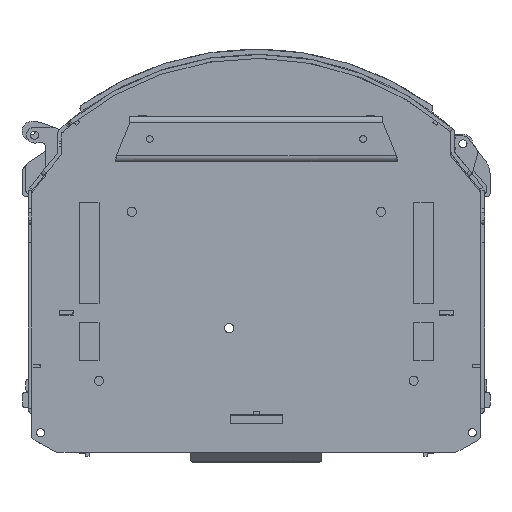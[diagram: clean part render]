
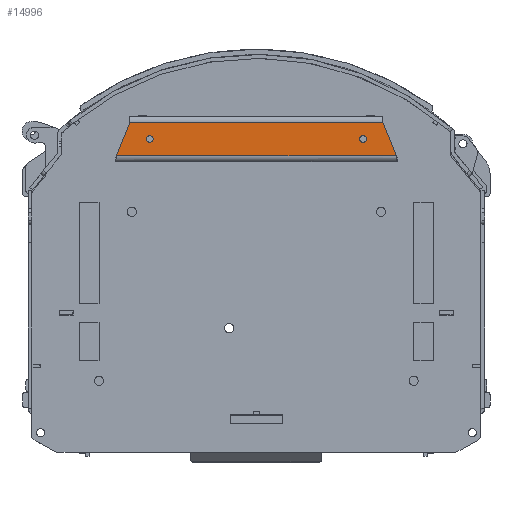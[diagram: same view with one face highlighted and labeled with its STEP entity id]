
A CAD part, front view. The second image highlights one B-rep face of the part: STEP entity #14996.
In plain terms, the highlighted planar face has unit normal (0, -1, 0).
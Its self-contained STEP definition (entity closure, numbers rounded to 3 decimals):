
#25 = CARTESIAN_POINT ( 'NONE',  ( -81.32, 314.45, 87.229 ) ) ;
#64 = FACE_BOUND ( 'NONE', #38293, .T. ) ;
#480 = DIRECTION ( 'NONE',  ( 1., 0., 0. ) ) ;
#583 = CARTESIAN_POINT ( 'NONE',  ( -96.47, 314.45, 100.129 ) ) ;
#1025 = AXIS2_PLACEMENT_3D ( 'NONE', #33492, #24568, #8058 ) ;
#2170 = AXIS2_PLACEMENT_3D ( 'NONE', #4388, #41446, #32261 ) ;
#2334 = ORIENTED_EDGE ( 'NONE', *, *, #44823, .F. ) ;
#3371 = CIRCLE ( 'NONE', #8443, 2.6 ) ;
#3579 = LINE ( 'NONE', #36587, #18578 ) ;
#4083 = DIRECTION ( 'NONE',  ( 0., -1., 0. ) ) ;
#4388 = CARTESIAN_POINT ( 'NONE',  ( 108.5, 314.45, 104.729 ) ) ;
#4570 = DIRECTION ( 'NONE',  ( -1., 0., 0. ) ) ;
#4771 = DIRECTION ( 'NONE',  ( -1., 0., 0. ) ) ;
#5293 = DIRECTION ( 'NONE',  ( 0., -1., 0. ) ) ;
#5603 = ORIENTED_EDGE ( 'NONE', *, *, #34275, .F. ) ;
#6062 = ORIENTED_EDGE ( 'NONE', *, *, #42382, .F. ) ;
#8012 = VECTOR ( 'NONE', #480, 1000. ) ;
#8058 = DIRECTION ( 'NONE',  ( -1., 0., 0. ) ) ;
#8179 = FACE_OUTER_BOUND ( 'NONE', #48666, .T. ) ;
#8443 = AXIS2_PLACEMENT_3D ( 'NONE', #40010, #5293, #4771 ) ;
#8631 = LINE ( 'NONE', #41620, #45521 ) ;
#9128 = EDGE_CURVE ( 'NONE', #47662, #14107, #3371, .T. ) ;
#11764 = CIRCLE ( 'NONE', #33360, 2.6 ) ;
#12213 = ORIENTED_EDGE ( 'NONE', *, *, #9128, .F. ) ;
#14107 = VERTEX_POINT ( 'NONE', #24081 ) ;
#14255 = VERTEX_POINT ( 'NONE', #50539 ) ;
#14878 = EDGE_CURVE ( 'NONE', #18257, #14255, #3579, .T. ) ;
#14996 = ADVANCED_FACE ( 'NONE', ( #8179, #24688, #64 ), #16551, .F. ) ;
#15891 = CARTESIAN_POINT ( 'NONE',  ( 83.92, 314.45, 87.229 ) ) ;
#16407 = VERTEX_POINT ( 'NONE', #583 ) ;
#16551 = PLANE ( 'NONE',  #2170 ) ;
#17157 = CARTESIAN_POINT ( 'NONE',  ( 96.47, 314.45, 100.129 ) ) ;
#17426 = CIRCLE ( 'NONE', #1025, 2.6 ) ;
#18257 = VERTEX_POINT ( 'NONE', #17157 ) ;
#18578 = VECTOR ( 'NONE', #44970, 1000. ) ;
#19780 = DIRECTION ( 'NONE',  ( -1., 0., 0. ) ) ;
#20180 = ORIENTED_EDGE ( 'NONE', *, *, #38160, .F. ) ;
#21005 = CIRCLE ( 'NONE', #43457, 2.6 ) ;
#24081 = CARTESIAN_POINT ( 'NONE',  ( -78.72, 314.45, 87.229 ) ) ;
#24568 = DIRECTION ( 'NONE',  ( 0., -1., 0. ) ) ;
#24688 = FACE_BOUND ( 'NONE', #27700, .T. ) ;
#26976 = ORIENTED_EDGE ( 'NONE', *, *, #14878, .F. ) ;
#27350 = LINE ( 'NONE', #27615, #46889 ) ;
#27615 = CARTESIAN_POINT ( 'NONE',  ( -106.68, 314.45, 74.329 ) ) ;
#27700 = EDGE_LOOP ( 'NONE', ( #12213, #20180 ) ) ;
#29175 = VERTEX_POINT ( 'NONE', #30639 ) ;
#30639 = CARTESIAN_POINT ( 'NONE',  ( -106.68, 314.45, 74.329 ) ) ;
#32261 = DIRECTION ( 'NONE',  ( 1., 0., 0. ) ) ;
#32403 = DIRECTION ( 'NONE',  ( -1., 0., 0. ) ) ;
#33208 = LINE ( 'NONE', #49966, #8012 ) ;
#33360 = AXIS2_PLACEMENT_3D ( 'NONE', #25, #4083, #19780 ) ;
#33492 = CARTESIAN_POINT ( 'NONE',  ( 81.32, 314.45, 87.229 ) ) ;
#34275 = EDGE_CURVE ( 'NONE', #40975, #40002, #21005, .T. ) ;
#34934 = DIRECTION ( 'NONE',  ( 0.368, 0., 0.93 ) ) ;
#36587 = CARTESIAN_POINT ( 'NONE',  ( 96.47, 314.45, 100.129 ) ) ;
#37389 = ORIENTED_EDGE ( 'NONE', *, *, #45245, .F. ) ;
#38160 = EDGE_CURVE ( 'NONE', #14107, #47662, #11764, .T. ) ;
#38293 = EDGE_LOOP ( 'NONE', ( #6062, #5603 ) ) ;
#39734 = CARTESIAN_POINT ( 'NONE',  ( -83.92, 314.45, 87.229 ) ) ;
#40002 = VERTEX_POINT ( 'NONE', #51036 ) ;
#40010 = CARTESIAN_POINT ( 'NONE',  ( -81.32, 314.45, 87.229 ) ) ;
#40780 = CARTESIAN_POINT ( 'NONE',  ( 81.32, 314.45, 87.229 ) ) ;
#40975 = VERTEX_POINT ( 'NONE', #15891 ) ;
#41446 = DIRECTION ( 'NONE',  ( 0., 1., 0. ) ) ;
#41620 = CARTESIAN_POINT ( 'NONE',  ( 108.5, 314.45, 74.329 ) ) ;
#42382 = EDGE_CURVE ( 'NONE', #40002, #40975, #17426, .T. ) ;
#43457 = AXIS2_PLACEMENT_3D ( 'NONE', #40780, #48633, #32403 ) ;
#44823 = EDGE_CURVE ( 'NONE', #16407, #18257, #33208, .T. ) ;
#44970 = DIRECTION ( 'NONE',  ( 0.368, 0., -0.93 ) ) ;
#45245 = EDGE_CURVE ( 'NONE', #29175, #16407, #27350, .T. ) ;
#45521 = VECTOR ( 'NONE', #4570, 1000. ) ;
#46889 = VECTOR ( 'NONE', #34934, 1000. ) ;
#47662 = VERTEX_POINT ( 'NONE', #39734 ) ;
#48268 = ORIENTED_EDGE ( 'NONE', *, *, #52910, .F. ) ;
#48633 = DIRECTION ( 'NONE',  ( 0., -1., 0. ) ) ;
#48666 = EDGE_LOOP ( 'NONE', ( #2334, #37389, #48268, #26976 ) ) ;
#49966 = CARTESIAN_POINT ( 'NONE',  ( 108.5, 314.45, 100.129 ) ) ;
#50539 = CARTESIAN_POINT ( 'NONE',  ( 106.68, 314.45, 74.329 ) ) ;
#51036 = CARTESIAN_POINT ( 'NONE',  ( 78.72, 314.45, 87.229 ) ) ;
#52910 = EDGE_CURVE ( 'NONE', #14255, #29175, #8631, .T. ) ;
